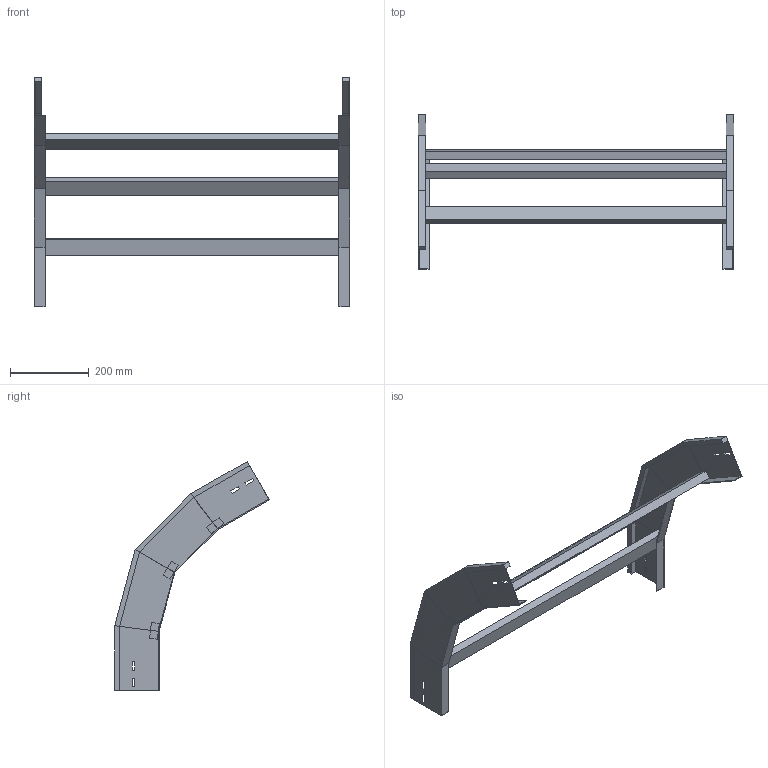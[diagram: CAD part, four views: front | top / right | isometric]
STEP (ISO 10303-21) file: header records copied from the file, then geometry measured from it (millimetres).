
FILE_DESCRIPTION (( 'STEP AP214' ), '1' );
FILE_NAME ('A2_41B3J800.step', '2025-02-21T14:58:35', ( '' ), ( '' ), 'SwSTEP 2.0', 'SolidWorks 2023', '' );
FILE_SCHEMA (( 'AUTOMOTIVE_DESIGN' ));
Length unit declared in the file: millimetre
Products named in the file (3): TRAVERSINO_800; LONGH.DISCESA_60°_H112.5_R300; A2_41B3J800
Assembly tree (5 placements, depth 2):
  A2_41B3J800
    LONGH.DISCESA_60°_H112.5_R300  x2
    TRAVERSINO_800  x3
Bounding box: 800 x 392.12 x 581.75 mm (x, y, z)
Volume: 2572009.3 mm3; surface area: 708281.2 mm2
Topology: 5 solids, 5 shells, 118 faces, 276 edges, 168 vertices
Faces by surface type: plane 118
Entity records: 1672 total; most frequent: CARTESIAN_POINT 276, ORIENTED_EDGE 264, DIRECTION 260, EDGE_CURVE 132, LINE 132, VECTOR 132, VERTEX_POINT 80, AXIS2_PLACEMENT_3D 64
